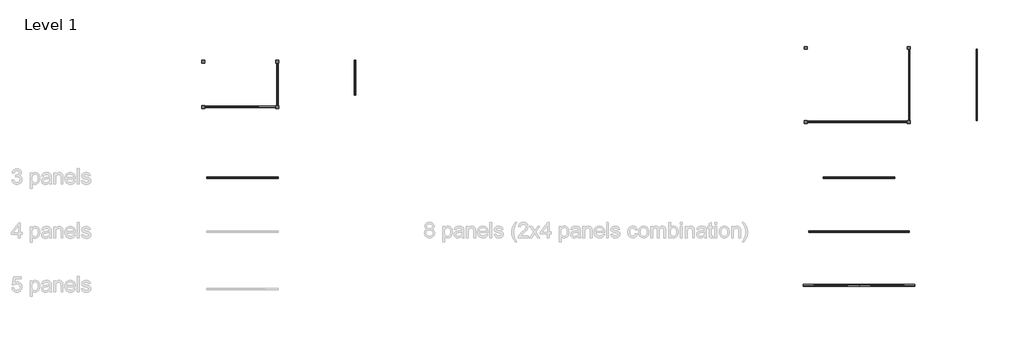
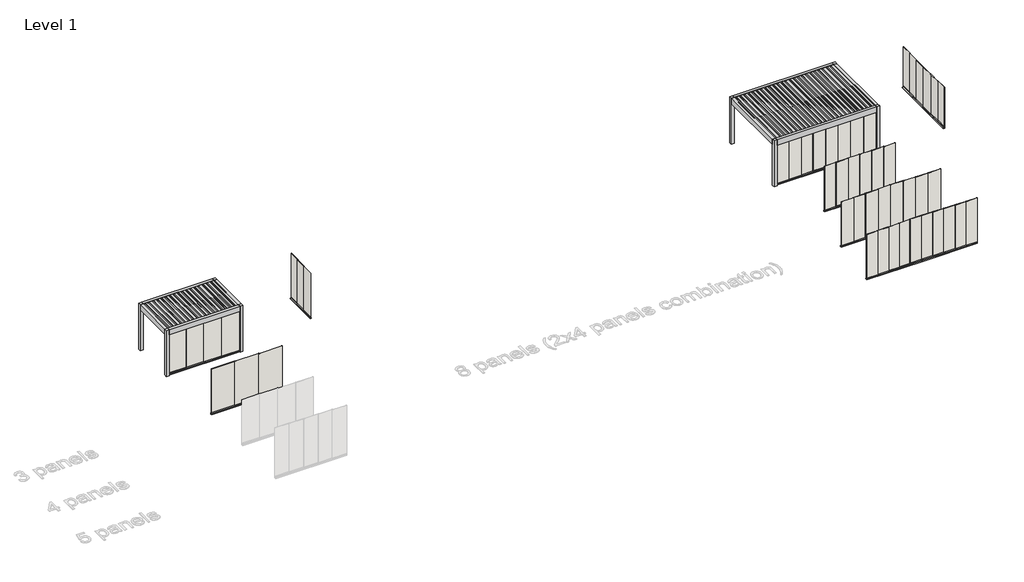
# One storey, part 16 of 80: 16 walls, 2 proxies.
"""IFC4 building model written with IfcOpenShell, lengths in millimetres."""

from ifc_helpers import new_model, si_unit, origin, place, context, project, spatial, transform, mapped, element, save
from components import generic_models_e44263f4, generic_models_629fc401, wall_d841771b, wall_3baa8c77, wall_afea243a, wall_1bcae838, wall_0dc757db, wall_e7443eef, wall_4708eb0e, wall_5a5b3840, wall_de337338, wall_7cdae695, wall_dde1c0c2, wall_83ab0af3, wall_681c5937, wall_1caff321

model = new_model("IFC4")

# Units and contexts
model_context = context("Model", 3, world=origin())
ifc_project = project(units=[si_unit("LENGTHUNIT", "METRE", prefix="MILLI")], contexts=[model_context])

# Site, building, storey
site = spatial("IfcSite", under=ifc_project)
building = spatial("IfcBuilding", under=site)
storey = spatial("IfcBuildingStorey", under=building, Name="Level 1", Elevation=0.0)

# Proxies
placement = place(None, origin())
generic_models_shape = generic_models_e44263f4(model_context)
element("IfcBuildingElementProxy", 1, Name="Renson_Amani_Patio_Cover : Renson_Amani_Patio_Cover", ObjectType="Renson_Amani_Patio_Cover : Renson_Amani_Patio_Cover", at=placement, inside=storey, context=model_context, shape_type="MappedRepresentation", body=[
    mapped(generic_models_shape, transform((384965.9810446, -89569.1002025, 0.0), x_axis=(1.0, 0.0, 0.0), y_axis=(0.0, 1.0, 0.0), z_axis=(0.0, 0.0, 1.0))),
])
generic_models_2_shape = generic_models_629fc401(model_context)
element("IfcBuildingElementProxy", 2, Name="Renson_Amani_Patio_Cover : Renson_Amani_Patio_Cover", ObjectType="Renson_Amani_Patio_Cover : Renson_Amani_Patio_Cover", at=placement, inside=storey, context=model_context, shape_type="MappedRepresentation", body=[
    mapped(generic_models_2_shape, transform((416965.9810446, -89601.1002025, 0.0), x_axis=(1.0, 0.0, 0.0), y_axis=(0.0, 1.0, 0.0), z_axis=(0.0, 0.0, 1.0))),
])

# Walls
wall_shape = wall_d841771b(model_context)
element("IfcWall", 3, ObjectType="Renson_Amani_Glass_Sliding_Panel : Renson_Amani_Glass_Sliding_Panel", at=placement, inside=storey, context=model_context, shape_type="MappedRepresentation", body=[
    mapped(wall_shape, transform((386065.9810446, -90779.1002025, 0.0), x_axis=(1.0, 0.0, 0.0), y_axis=(0.0, 1.0, 0.0), z_axis=(0.0, 0.0, 1.0))),
])
wall_2_shape = wall_3baa8c77(model_context)
element("IfcWall", 4, ObjectType="Renson_Amani_Glass_Sliding_Panel : Renson_Amani_Glass_Sliding_Panel", at=placement, inside=storey, context=model_context, shape_type="MappedRepresentation", body=[
    mapped(wall_2_shape, transform((386185.9810446, -94444.1002025, 0.0), x_axis=(1.0, 0.0, 0.0), y_axis=(0.0, 1.0, 0.0), z_axis=(0.0, 0.0, 1.0))),
])
wall_3_shape = wall_afea243a(model_context)
element("IfcWall", 5, ObjectType="Renson_Amani_Glass_Sliding_Panel : Renson_Amani_Glass_Sliding_Panel", at=placement, inside=storey, context=model_context, shape_type="MappedRepresentation", body=[
    mapped(wall_3_shape, transform((390946.3183956, -89069.1002025, 0.0), x_axis=(0.0, 1.0, 0.0), y_axis=(-1.0, 0.0, 0.0), z_axis=(0.0, 0.0, 1.0))),
])
wall_4_shape = wall_1bcae838(model_context)
element("IfcWall", 6, ObjectType="Renson_Amani_Glass_Sliding_Panel : Renson_Amani_Glass_Sliding_Panel", at=placement, inside=storey, context=model_context, shape_type="MappedRepresentation", body=[
    mapped(wall_4_shape, transform((386925.9810446, -89179.1002025, 0.0), x_axis=(0.0, 1.0, 0.0), y_axis=(-1.0, 0.0, 0.0), z_axis=(0.0, 0.0, 1.0))),
])
wall_5_shape = wall_0dc757db(model_context)
element("IfcWall", 7, ObjectType="Renson_Amani_Glass_Sliding_Panel : Renson_Amani_Glass_Sliding_Panel", at=placement, inside=storey, context=model_context, shape_type="MappedRepresentation", body=[
    mapped(wall_5_shape, transform((418157.5745713, -94444.1002025, 0.0), x_axis=(1.0, 0.0, 0.0), y_axis=(0.0, 1.0, 0.0), z_axis=(0.0, 0.0, 1.0))),
])
wall_6_shape = wall_e7443eef(model_context)
element("IfcWall", 8, ObjectType="Renson_Amani_Glass_Sliding_Panel : Renson_Amani_Glass_Sliding_Panel", at=placement, inside=storey, context=model_context, shape_type="MappedRepresentation", body=[
    mapped(wall_6_shape, transform((418907.5745713, -97244.1002025, 0.0), x_axis=(1.0, 0.0, 0.0), y_axis=(0.0, 1.0, 0.0), z_axis=(0.0, 0.0, 1.0))),
])
wall_7_shape = wall_4708eb0e(model_context)
element("IfcWall", 9, ObjectType="Renson_Amani_Glass_Sliding_Panel : Renson_Amani_Glass_Sliding_Panel", at=placement, inside=storey, context=model_context, shape_type="MappedRepresentation", body=[
    mapped(wall_7_shape, transform((415957.5745713, -94444.1002025, 0.0), x_axis=(-1.0, 0.0, 0.0), y_axis=(0.0, -1.0, 0.0), z_axis=(0.0, 0.0, 1.0))),
])
wall_8_shape = wall_5a5b3840(model_context)
element("IfcWall", 10, ObjectType="Renson_Amani_Glass_Sliding_Panel : Renson_Amani_Glass_Sliding_Panel", at=placement, inside=storey, context=model_context, shape_type="MappedRepresentation", body=[
    mapped(wall_8_shape, transform((415207.5745713, -97244.1002025, 0.0), x_axis=(-1.0, 0.0, 0.0), y_axis=(0.0, -1.0, 0.0), z_axis=(0.0, 0.0, 1.0))),
])
wall_9_shape = wall_de337338(model_context)
element("IfcWall", 11, ObjectType="Renson_Amani_Glass_Sliding_Panel : Renson_Amani_Glass_Sliding_Panel", at=placement, inside=storey, context=model_context, shape_type="MappedRepresentation", body=[
    mapped(wall_9_shape, transform((418815.9810446, -91549.1002025, 0.0), x_axis=(1.0, 0.0, 0.0), y_axis=(0.0, 1.0, 0.0), z_axis=(0.0, 0.0, 1.0))),
])
wall_10_shape = wall_7cdae695(model_context)
element("IfcWall", 12, ObjectType="Renson_Amani_Glass_Sliding_Panel : Renson_Amani_Glass_Sliding_Panel", at=placement, inside=storey, context=model_context, shape_type="MappedRepresentation", body=[
    mapped(wall_10_shape, transform((415115.9810446, -91549.1002025, 0.0), x_axis=(-1.0, 0.0, 0.0), y_axis=(0.0, -1.0, 0.0), z_axis=(0.0, 0.0, 1.0))),
])
wall_11_shape = wall_dde1c0c2(model_context)
element("IfcWall", 13, ObjectType="Renson_Amani_Glass_Sliding_Panel : Renson_Amani_Glass_Sliding_Panel", at=placement, inside=storey, context=model_context, shape_type="MappedRepresentation", body=[
    mapped(wall_11_shape, transform((419700.9810446, -88496.1002025, 0.0), x_axis=(0.0, 1.0, 0.0), y_axis=(-1.0, 0.0, 0.0), z_axis=(0.0, 0.0, 1.0))),
])
element("IfcWall", 14, ObjectType="Renson_Amani_Glass_Sliding_Panel : Renson_Amani_Glass_Sliding_Panel", at=placement, inside=storey, context=model_context, shape_type="MappedRepresentation", body=[
    mapped(wall_11_shape, transform((423200.9810446, -88496.1002025, 0.0), x_axis=(0.0, 1.0, 0.0), y_axis=(-1.0, 0.0, 0.0), z_axis=(0.0, 0.0, 1.0))),
])
wall_12_shape = wall_83ab0af3(model_context)
element("IfcWall", 15, ObjectType="Renson_Amani_Glass_Sliding_Panel : Renson_Amani_Glass_Sliding_Panel", at=placement, inside=storey, context=model_context, shape_type="MappedRepresentation", body=[
    mapped(wall_12_shape, transform((419695.9810446, -90706.1002025, 0.0), x_axis=(0.0, -1.0, 0.0), y_axis=(1.0, 0.0, 0.0), z_axis=(0.0, 0.0, 1.0))),
])
element("IfcWall", 16, ObjectType="Renson_Amani_Glass_Sliding_Panel : Renson_Amani_Glass_Sliding_Panel", at=placement, inside=storey, context=model_context, shape_type="MappedRepresentation", body=[
    mapped(wall_12_shape, transform((423195.9810446, -90706.1002025, 0.0), x_axis=(0.0, -1.0, 0.0), y_axis=(1.0, 0.0, 0.0), z_axis=(0.0, 0.0, 1.0))),
])
wall_13_shape = wall_681c5937(model_context)
element("IfcWall", 17, ObjectType="Renson_Amani_Glass_Sliding_Panel : Renson_Amani_Glass_Sliding_Panel", at=placement, inside=storey, context=model_context, shape_type="MappedRepresentation", body=[
    mapped(wall_13_shape, transform((419197.5745713, -100044.1002025, 0.0), x_axis=(1.0, 0.0, 0.0), y_axis=(0.0, 1.0, 0.0), z_axis=(0.0, 0.0, 1.0))),
])
wall_14_shape = wall_1caff321(model_context)
element("IfcWall", 18, ObjectType="Renson_Amani_Glass_Sliding_Panel : Renson_Amani_Glass_Sliding_Panel", at=placement, inside=storey, context=model_context, shape_type="MappedRepresentation", body=[
    mapped(wall_14_shape, transform((414917.5745713, -100044.1002025, 0.0), x_axis=(-1.0, 0.0, 0.0), y_axis=(0.0, -1.0, 0.0), z_axis=(0.0, 0.0, 1.0))),
])

save(model, "model.ifc")
